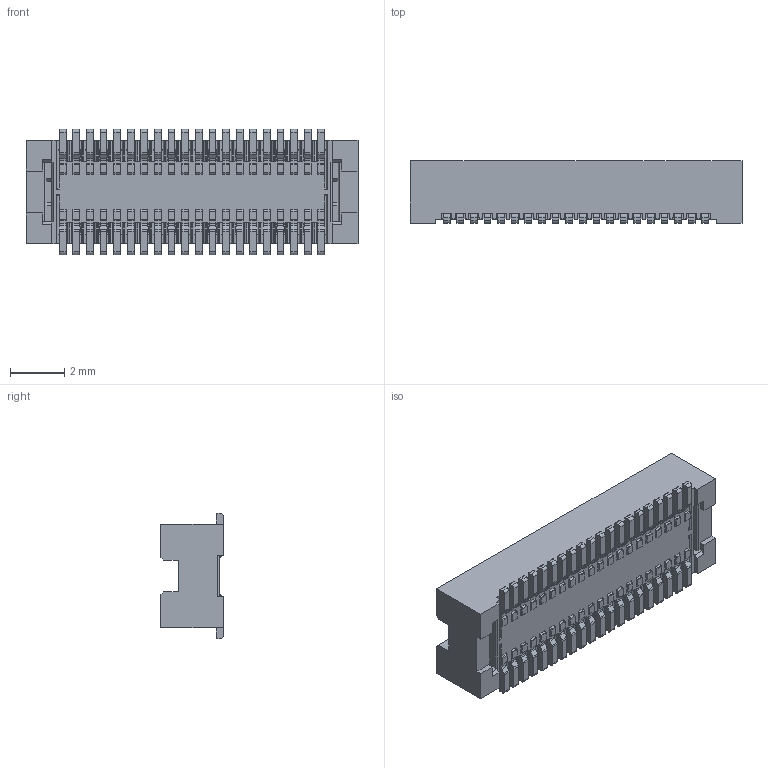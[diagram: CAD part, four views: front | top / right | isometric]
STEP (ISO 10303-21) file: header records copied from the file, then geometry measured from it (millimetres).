
FILE_DESCRIPTION((''),'2;1');
FILE_NAME('S-50013-040XX-003','2015-10-14T',('d20783'),(''),'PRO/ENGINEER BY PARAMETRIC TECHNOLOGY CORPORATION, 2009360','PRO/ENGINEER BY PARAMETRIC TECHNOLOGY CORPORATION, 2009360','');
FILE_SCHEMA(('CONFIG_CONTROL_DESIGN'));
Products named in the file (1): S-50013-040XX-003
Bounding box: 12.2 x 2.3 x 4.6 mm (x, y, z)
Volume: 58.6 mm3; surface area: 374 mm2
Topology: 1 solids, 1 shells, 2116 faces, 6858 edges, 4616 vertices
Faces by surface type: plane 1492, cylinder 624
Entity records: 75031 total; most frequent: CARTESIAN_POINT 14153, ORIENTED_EDGE 13236, DIRECTION 11932, EDGE_CURVE 6618, VECTOR 5530, LINE 5530, VERTEX_POINT 4376, AXIS2_PLACEMENT_3D 3201
